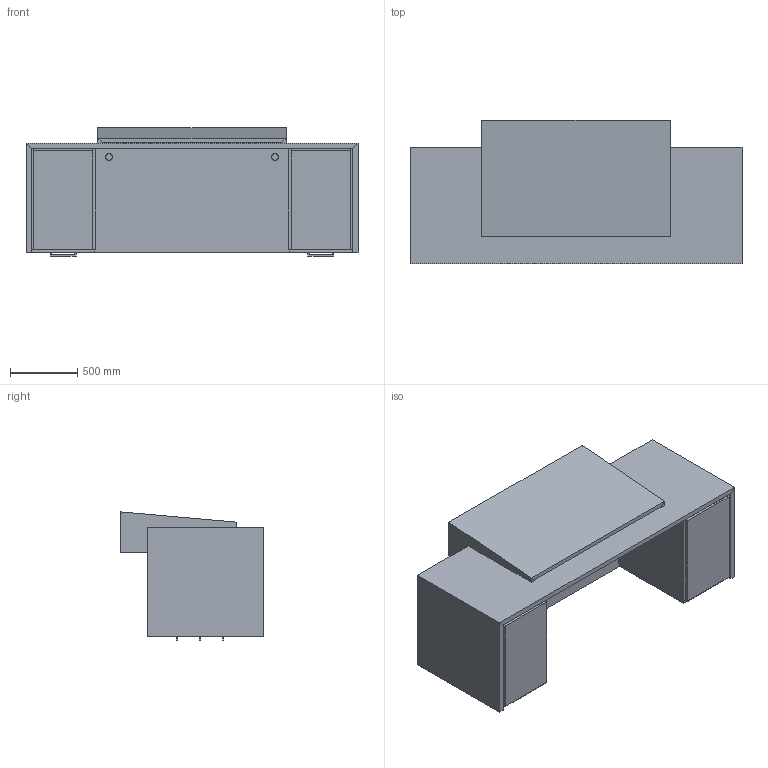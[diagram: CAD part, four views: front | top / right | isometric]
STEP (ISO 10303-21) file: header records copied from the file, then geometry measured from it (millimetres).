
FILE_DESCRIPTION(/* description */ ('','CAx-IF Rec.Pracs.---Representation and Presentation of Product Manufacturing Information (PMI)---4.0---2014-10-13'),/* implementation_level */ '2;1');
FILE_NAME(/* name */ 'RECEPTION_SALUTE 3.stp',/* time_stamp */ '2024-12-07T19:01:56-05:00',/* author */ ('mbowman'),/* organization */ (''),/* preprocessor_version */ 'ST-DEVELOPER v19.2',/* originating_system */ 'Autodesk Inventor 2023',/* authorisation */ '');
FILE_SCHEMA (('AP242_MANAGED_MODEL_BASED_3D_ENGINEERING_MIM_LF { 1 0 10303 442 1 1 4 }'));
Length unit declared in the file: inch
Products named in the file (4): SALUTE^ADMIN 3_SLOPED TRANS-SOLID ASSEMBLY; SALUTE^ADMIN_32x97 BASE-PARTS SOLID; SALUTE^ADMIN_34x55 SLOPED TRANS-PARTS SOLID; HAFELE 102.12.004-7_5 INCH
Assembly tree (6 placements, depth 2):
  SALUTE^ADMIN 3_SLOPED TRANS-SOLID ASSEMBLY
    SALUTE^ADMIN_32x97 BASE-PARTS SOLID
    SALUTE^ADMIN_34x55 SLOPED TRANS-PARTS SOLID
    HAFELE 102.12.004-7_5 INCH  x4
Bounding box: 2463.8 x 1066.8 x 951.87 mm (x, y, z)
Volume: 358378905.5 mm3; surface area: 25804814.7 mm2
Topology: 27 solids, 27 shells, 192 faces, 414 edges, 276 vertices
Faces by surface type: plane 190, cylinder 2
Full cylindrical faces by diameter (mm): 48.26 x2
Entity records: 5411 total; most frequent: CARTESIAN_POINT 1138, DIRECTION 716, ORIENTED_EDGE 684, EDGE_CURVE 342, LINE 338, VECTOR 338, STYLED_ITEM 262, VERTEX_POINT 228
